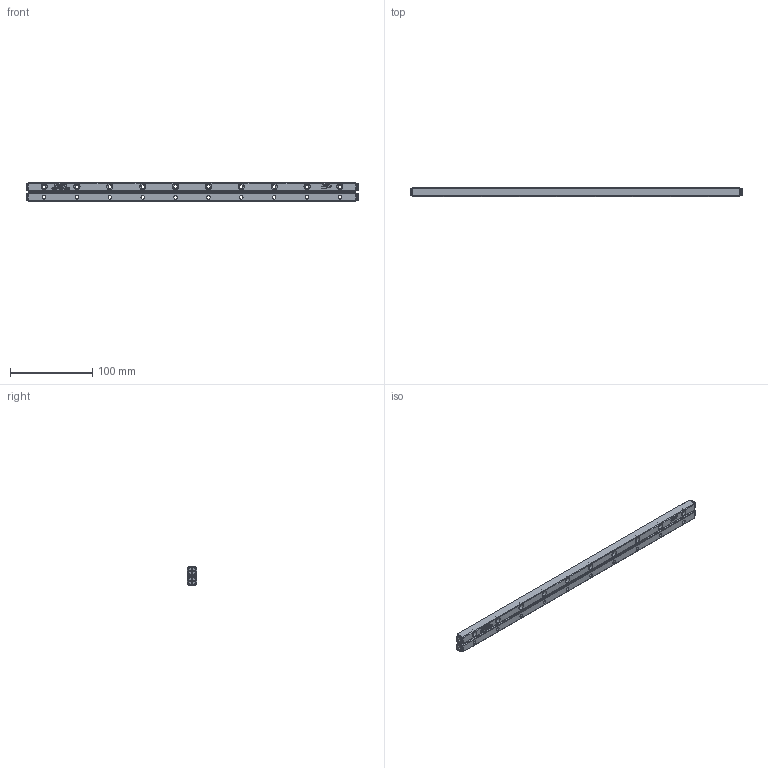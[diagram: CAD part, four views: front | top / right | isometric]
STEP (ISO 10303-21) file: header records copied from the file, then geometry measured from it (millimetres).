
FILE_DESCRIPTION (( 'STEP AP203' ), '1' );
FILE_NAME ('GRV04-400.STEP', '2024-03-28T05:06:07', ( '' ), ( '' ), 'SwSTEP 2.0', 'SolidWorks 2019', '' );
FILE_SCHEMA (( 'CONFIG_CONTROL_DESIGN' ));
Length unit declared in the file: millimetre
Products named in the file (3): GRV04-400; GRV04-400-模糊化軌道_GMT; GRV04-400-模糊化保持器組_GMT
Assembly tree (3 placements, depth 2):
  GRV04-400
    GRV04-400-模糊化軌道_GMT  x2
    GRV04-400-模糊化保持器組_GMT
Bounding box: 404 x 11 x 22 mm (x, y, z)
Volume: 81191.4 mm3; surface area: 44293.6 mm2
Topology: 3 solids, 3 shells, 1730 faces, 4448 edges, 2878 vertices
Faces by surface type: plane 896, cylinder 515, torus 169, bspline 106, cone 44
Entity records: 44270 total; most frequent: CARTESIAN_POINT 13349, ORIENTED_EDGE 6912, DIRECTION 5821, EDGE_CURVE 3456, VERTEX_POINT 2246, AXIS2_PLACEMENT_3D 2061, LINE 1699, VECTOR 1699
